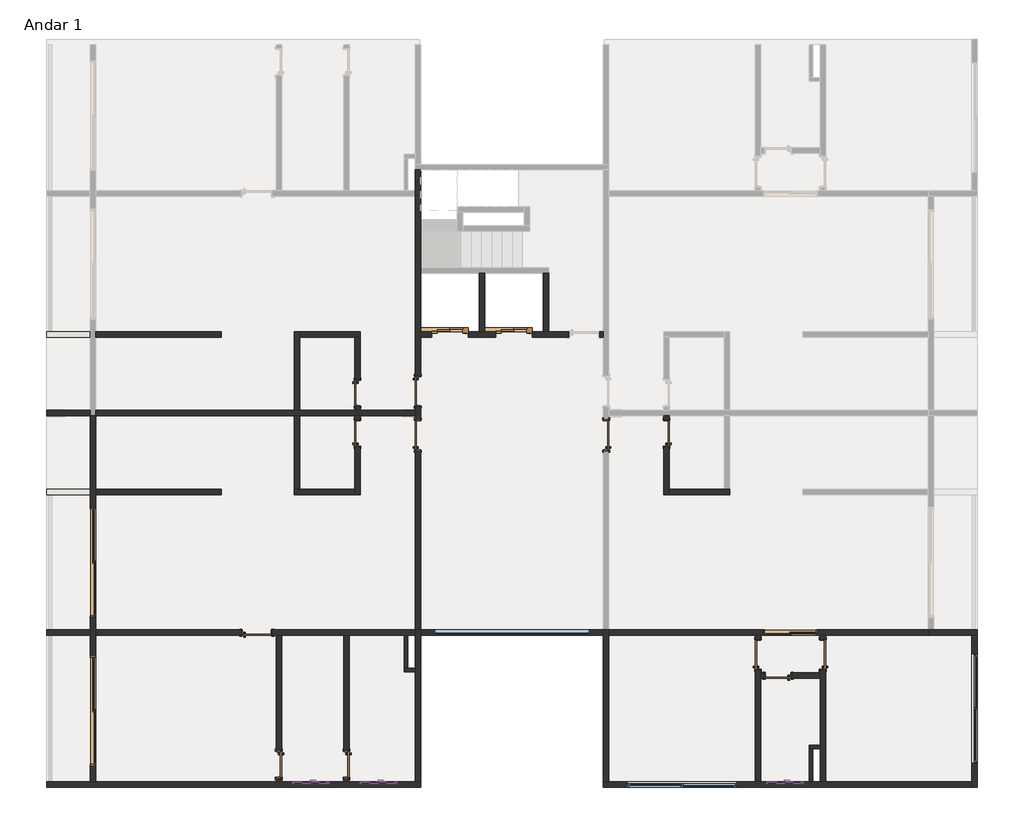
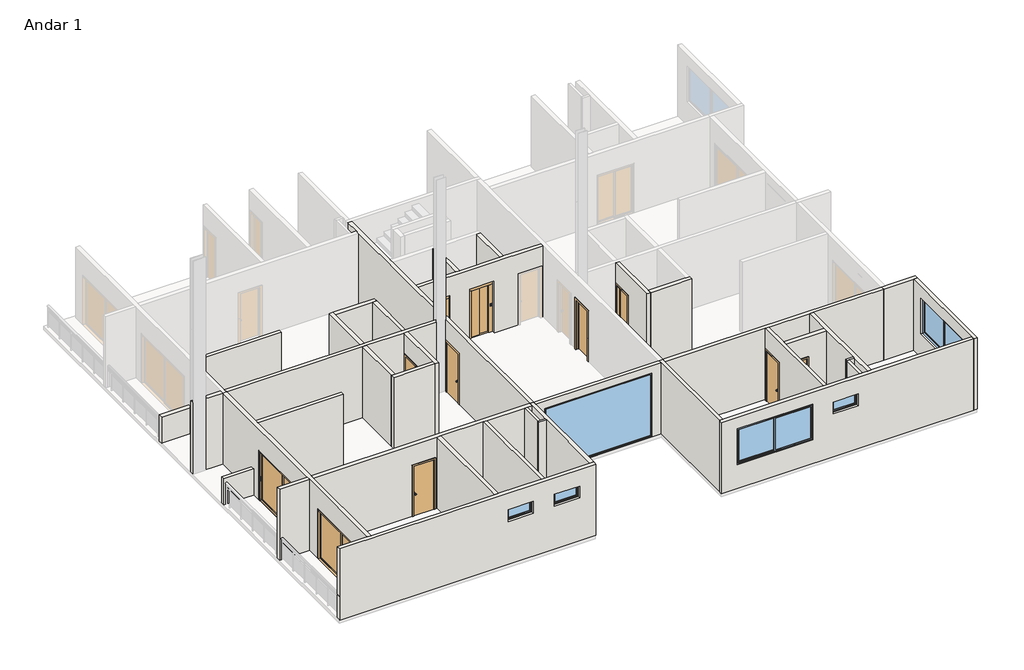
# One storey, part 1 of 3: 38 walls, 17 doors, 6 windows.
"""IFC4 building model written with IfcOpenShell, lengths in millimetres."""

from ifc_helpers import new_model, si_unit, frame, origin, place, context, project, spatial, polyline, outline, extrude, faceted_brep, transform, mapped, element, save
from components import door_ffffc2e2, door_3_00m_x_2_10m_5baaadc1, door_interior_single_flush_panel_wood_70m_89b55d44, door_interior_single_flush_panel_wood_70m_eb1ec4d9, door_interior_single_flush_panel_wood_80m_pcf_cb5077a7, door_interior_single_flush_panel_wood_80m_pcf_192ded05, p2_1_50m_x_2_10m_936728f7, window_d153a765, j1_3_00m_x_1_50m_28497eee, m_fixo_j3_4_30m_x_2_70m_9528c059

model = new_model("IFC4")

# Units and contexts
model_context = context("Model", 3, world=origin())
ifc_project = project(units=[si_unit("LENGTHUNIT", "METRE", prefix="MILLI")], contexts=[model_context])

# Site, building, storey
site = spatial("IfcSite", under=ifc_project)
building = spatial("IfcBuilding", under=site)
storey = spatial("IfcBuildingStorey", under=building, Name="Andar 1", Elevation=3150.0)

# Doors
placement = place(None, origin())
door_shape = door_ffffc2e2(model_context)
element("IfcDoor", 1, ObjectType="Porta do elevador : Porta do elevador", at=placement, inside=storey, context=model_context, shape_type="MappedRepresentation", body=[
    mapped(door_shape, transform((16900.0, 14650.0, 3150.0), x_axis=(1.0, 0.0, 0.0), y_axis=(0.0, 1.0, 0.0), z_axis=(0.0, 0.0, 1.0))),
])
element("IfcDoor", 2, ObjectType="Porta do elevador : Porta do elevador", at=placement, inside=storey, context=model_context, shape_type="MappedRepresentation", body=[
    mapped(door_shape, transform((18650.0, 14650.0, 3150.0), x_axis=(1.0, 0.0, 0.0), y_axis=(0.0, 1.0, 0.0), z_axis=(0.0, 0.0, 1.0))),
])
door_3_00m_x_2_10m_shape = door_3_00m_x_2_10m_5baaadc1(model_context)
element("IfcDoor", 3, ObjectType="Porta de Correr - 2 Folhas - ComPainel 1 : 3.00m x 2.10m", at=placement, inside=storey, context=model_context, shape_type="MappedRepresentation", body=[
    mapped(door_3_00m_x_2_10m_shape, transform((7275.0, 8395.7939229, 3150.0), x_axis=(0.0, 1.0, 0.0), y_axis=(-1.0, 0.0, 0.0), z_axis=(0.0, 0.0, 1.0))),
])
element("IfcDoor", 4, ObjectType="Porta de Correr - 2 Folhas - ComPainel 1 : 3.00m x 2.10m", at=placement, inside=storey, context=model_context, shape_type="MappedRepresentation", body=[
    mapped(door_3_00m_x_2_10m_shape, transform((7275.0, 4335.7939229, 3150.0), x_axis=(0.0, 1.0, 0.0), y_axis=(-1.0, 0.0, 0.0), z_axis=(0.0, 0.0, 1.0))),
])
door_interior_single_flush_panel_wood_70m_shape = door_interior_single_flush_panel_wood_70m_89b55d44(model_context)
element("IfcDoor", 5, ObjectType="Door-Interior-Single-Flush_Panel-Wood : .70m", at=placement, inside=storey, context=model_context, shape_type="MappedRepresentation", body=[
    mapped(door_interior_single_flush_panel_wood_70m_shape, transform((14496.825, 11949.6, 3150.0), x_axis=(0.0, 1.0, 0.0), y_axis=(-1.0, 0.0, 0.0), z_axis=(0.0, 0.0, 1.0))),
])
element("IfcDoor", 6, ObjectType="Door-Interior-Single-Flush_Panel-Wood : .70m", at=placement, inside=storey, context=model_context, shape_type="MappedRepresentation", body=[
    mapped(door_interior_single_flush_panel_wood_70m_shape, transform((14203.175, 2900.4, 3150.0), x_axis=(0.0, -1.0, 0.0), y_axis=(1.0, 0.0, 0.0), z_axis=(0.0, 0.0, 1.0))),
])
element("IfcDoor", 7, ObjectType="Door-Interior-Single-Flush_Panel-Wood : .70m", at=placement, inside=storey, context=model_context, shape_type="MappedRepresentation", body=[
    mapped(door_interior_single_flush_panel_wood_70m_shape, transform((26000.4, 5321.425, 3150.0), x_axis=(-1.0, 0.0, 0.0), y_axis=(0.0, -1.0, 0.0), z_axis=(0.0, 0.0, 1.0))),
])
element("IfcDoor", 8, ObjectType="Door-Interior-Single-Flush_Panel-Wood : .70m", at=placement, inside=storey, context=model_context, shape_type="MappedRepresentation", body=[
    mapped(door_interior_single_flush_panel_wood_70m_shape, transform((12353.175, 2900.4, 3150.0), x_axis=(0.0, -1.0, 0.0), y_axis=(1.0, 0.0, 0.0), z_axis=(0.0, 0.0, 1.0))),
])
door_interior_single_flush_panel_wood_70m_2_shape = door_interior_single_flush_panel_wood_70m_eb1ec4d9(model_context)
element("IfcDoor", 9, ObjectType="Door-Interior-Single-Flush_Panel-Wood : .70m", at=placement, inside=storey, context=model_context, shape_type="MappedRepresentation", body=[
    mapped(door_interior_single_flush_panel_wood_70m_2_shape, transform((14496.825, 13050.4, 3150.0), x_axis=(0.0, -1.0, 0.0), y_axis=(1.0, 0.0, 0.0), z_axis=(0.0, 0.0, 1.0))),
])
element("IfcDoor", 10, ObjectType="Door-Interior-Single-Flush_Panel-Wood : .70m", at=placement, inside=storey, context=model_context, shape_type="MappedRepresentation", body=[
    mapped(door_interior_single_flush_panel_wood_70m_2_shape, transform((22953.175, 11949.6, 3150.0), x_axis=(0.0, 1.0, 0.0), y_axis=(-1.0, 0.0, 0.0), z_axis=(0.0, 0.0, 1.0))),
])
door_interior_single_flush_panel_wood_80m_pcf_shape = door_interior_single_flush_panel_wood_80m_pcf_cb5077a7(model_context)
element("IfcDoor", 11, ObjectType="Door-Interior-Single-Flush_Panel-Wood : .80m", at=placement, inside=storey, context=model_context, shape_type="MappedRepresentation", body=[
    mapped(door_interior_single_flush_panel_wood_80m_pcf_shape, transform((11749.6, 6496.825, 3150.0), x_axis=(1.0, 0.0, 0.0), y_axis=(0.0, 1.0, 0.0), z_axis=(0.0, 0.0, 1.0))),
])
element("IfcDoor", 12, ObjectType="Door-Interior-Single-Flush_Panel-Wood : .80m", at=placement, inside=storey, context=model_context, shape_type="MappedRepresentation", body=[
    mapped(door_interior_single_flush_panel_wood_80m_pcf_shape, transform((27228.175, 5899.6, 3150.0), x_axis=(0.0, 1.0, 0.0), y_axis=(-1.0, 0.0, 0.0), z_axis=(0.0, 0.0, 1.0))),
])
door_interior_single_flush_panel_wood_80m_pcf_2_shape = door_interior_single_flush_panel_wood_80m_pcf_192ded05(model_context)
element("IfcDoor", 13, ObjectType="Door-Interior-Single-Flush_Panel-Wood : .80m", at=placement, inside=storey, context=model_context, shape_type="MappedRepresentation", body=[
    mapped(door_interior_single_flush_panel_wood_80m_pcf_2_shape, transform((25446.825, 5899.6, 3150.0), x_axis=(0.0, 1.0, 0.0), y_axis=(-1.0, 0.0, 0.0), z_axis=(0.0, 0.0, 1.0))),
])
element("IfcDoor", 14, ObjectType="Door-Interior-Single-Flush_Panel-Wood : .80m - PCF", at=placement, inside=storey, context=model_context, shape_type="MappedRepresentation", body=[
    mapped(door_interior_single_flush_panel_wood_80m_pcf_2_shape, transform((16146.825, 11899.6, 3150.0), x_axis=(0.0, 1.0, 0.0), y_axis=(-1.0, 0.0, 0.0), z_axis=(0.0, 0.0, 1.0))),
])
element("IfcDoor", 15, ObjectType="Door-Interior-Single-Flush_Panel-Wood : .80m - PCF", at=placement, inside=storey, context=model_context, shape_type="MappedRepresentation", body=[
    mapped(door_interior_single_flush_panel_wood_80m_pcf_shape, transform((16146.825, 13100.4, 3150.0), x_axis=(0.0, -1.0, 0.0), y_axis=(1.0, 0.0, 0.0), z_axis=(0.0, 0.0, 1.0))),
])
element("IfcDoor", 16, ObjectType="Door-Interior-Single-Flush_Panel-Wood : .80m - PCF", at=placement, inside=storey, context=model_context, shape_type="MappedRepresentation", body=[
    mapped(door_interior_single_flush_panel_wood_80m_pcf_shape, transform((21303.175, 11899.6, 3150.0), x_axis=(0.0, 1.0, 0.0), y_axis=(-1.0, 0.0, 0.0), z_axis=(0.0, 0.0, 1.0))),
])
p2_1_50m_x_2_10m_shape = p2_1_50m_x_2_10m_936728f7(model_context)
element("IfcDoor", 17, ObjectType="Porta de Correr - 2 Folhas - ComPainel 1 : P2 - 1.50m x 2.10m", at=placement, inside=storey, context=model_context, shape_type="MappedRepresentation", body=[
    mapped(p2_1_50m_x_2_10m_shape, transform((26308.2939229, 6500.0, 3150.0), x_axis=(1.0, 0.0, 0.0), y_axis=(0.0, 1.0, 0.0), z_axis=(0.0, 0.0, 1.0))),
])

# Walls
element("IfcWall", 18, ObjectType="M_Parede Normal - 10cm - Interna", at=placement, inside=storey, context=model_context, shape_type="Brep", body=[
    faceted_brep([(27150.0, 3425.0, 3150.0), (26850.0, 3425.0, 3150.0), (26850.0, 3425.0, 6150.0), (27150.0, 3425.0, 6150.0), (27150.0, 3325.0, 3150.0), (27150.0, 3325.0, 6150.0), (26950.0, 3325.0, 6150.0), (26850.0, 3325.0, 6150.0), (26850.0, 3325.0, 3150.0), (26950.0, 3325.0, 3150.0)], [[[0, 1, 2, 3]], [[4, 5, 6, 7, 8, 9]], [[1, 0, 4, 9, 8]], [[3, 2, 7, 6, 5]], [[2, 1, 8, 7]], [[0, 3, 5, 4]]]),
])
element("IfcWall", 19, ObjectType="M_Parede Normal - 10cm - Interna", at=placement, inside=storey, context=model_context, shape_type="SweptSolid", body=[
    extrude(outline(polyline([(26850.0, 2425.0), (26850.0, 3325.0), (26950.0, 3325.0), (26950.0, 2425.0), (26850.0, 2425.0)])), frame((0.0, 0.0, 3150.0), z_axis=(0.0, 0.0, 1.0), x_axis=(1.0, 0.0, 0.0)), (0.0, 0.0, 1.0), 3000.0),
])
element("IfcWall", 20, ObjectType="M_Parede Normal - 10cm - Interna", at=placement, inside=storey, context=model_context, shape_type="Brep", body=[
    faceted_brep([(16075.0, 5525.0, 3150.0), (15875.0, 5525.0, 3150.0), (15775.0, 5525.0, 3150.0), (15775.0, 5525.0, 6150.0), (15875.0, 5525.0, 6150.0), (16075.0, 5525.0, 6150.0), (16075.0, 5425.0, 3150.0), (16075.0, 5425.0, 6150.0), (15775.0, 5425.0, 6150.0), (15775.0, 5425.0, 3150.0)], [[[0, 1, 2, 3, 4, 5]], [[6, 7, 8, 9]], [[2, 1, 0, 6, 9]], [[5, 4, 3, 8, 7]], [[3, 2, 9, 8]], [[0, 5, 7, 6]]]),
])
element("IfcWall", 21, ObjectType="M_Parede Normal - 10cm - Interna", at=placement, inside=storey, context=model_context, shape_type="SweptSolid", body=[
    extrude(outline(polyline([(15875.0, 6425.0), (15875.0, 5525.0), (15775.0, 5525.0), (15775.0, 6425.0), (15875.0, 6425.0)])), frame((0.0, 0.0, 3150.0), z_axis=(0.0, 0.0, 1.0), x_axis=(1.0, 0.0, 0.0)), (0.0, 0.0, 1.0), 3000.0),
])
element("IfcWall", 22, ObjectType="M_Parede Normal - 15cm - Externa", at=placement, inside=storey, context=model_context, shape_type="SweptSolid", body=[
    extrude(outline(polyline([(7200.0, 14575.0), (6000.0, 14575.0), (6000.0, 14725.0), (7200.0, 14725.0), (7200.0, 14575.0)])), frame((0.0, 0.0, 3150.0), z_axis=(0.0, 0.0, 1.0), x_axis=(1.0, 0.0, 0.0)), (0.0, 0.0, 1.0), 1100.0),
])
element("IfcWall", 23, ObjectType="M_Parede Normal - 15cm - Externa", at=placement, inside=storey, context=model_context, shape_type="Brep", body=[
    faceted_brep([(16225.0, 2425.0, 3150.0), (16225.0, 6425.0, 3150.0), (16225.0, 6575.0, 3150.0), (16225.0, 6575.0, 6150.0), (16225.0, 6425.0, 6150.0), (16225.0, 2425.0, 6150.0), (16075.0, 2425.0, 3150.0), (16075.0, 2425.0, 6150.0), (16075.0, 5425.0, 6150.0), (16075.0, 5525.0, 6150.0), (16075.0, 6425.0, 6150.0), (16075.0, 6575.0, 6150.0), (16075.0, 6575.0, 3150.0), (16075.0, 6425.0, 3150.0), (16075.0, 5525.0, 3150.0), (16075.0, 5425.0, 3150.0)], [[[0, 1, 2, 3, 4, 5]], [[6, 7, 8, 9, 10, 11, 12, 13, 14, 15]], [[2, 1, 0, 6, 15, 14, 13, 12]], [[5, 4, 3, 11, 10, 9, 8, 7]], [[0, 5, 7, 6]], [[3, 2, 12, 11]]]),
])
element("IfcWall", 24, ObjectType="M_Parede Normal - 15cm - Externa", at=placement, inside=storey, context=model_context, shape_type="Brep", body=[
    faceted_brep([(6000.0, 2275.0, 3150.0), (16225.0, 2275.0, 3150.0), (16225.0, 2275.0, 6150.0), (6000.0, 2275.0, 6150.0), (13725.0, 2275.0, 4950.0), (12725.0, 2275.0, 4950.0), (12725.0, 2275.0, 5450.0), (13725.0, 2275.0, 5450.0), (15575.0, 2275.0, 4950.0), (14575.0, 2275.0, 4950.0), (14575.0, 2275.0, 5450.0), (15575.0, 2275.0, 5450.0), (6000.0, 2425.0, 3150.0), (6000.0, 2425.0, 6150.0), (7200.0, 2425.0, 6150.0), (7350.0, 2425.0, 6150.0), (12275.0, 2425.0, 6150.0), (12425.0, 2425.0, 6150.0), (14125.0, 2425.0, 6150.0), (14275.0, 2425.0, 6150.0), (16075.0, 2425.0, 6150.0), (16225.0, 2425.0, 6150.0), (16225.0, 2425.0, 3150.0), (16075.0, 2425.0, 3150.0), (14275.0, 2425.0, 3150.0), (14125.0, 2425.0, 3150.0), (12425.0, 2425.0, 3150.0), (12275.0, 2425.0, 3150.0), (7350.0, 2425.0, 3150.0), (7200.0, 2425.0, 3150.0), (6150.0, 2425.0, 3150.0), (13725.0, 2425.0, 4950.0), (13725.0, 2425.0, 5450.0), (12725.0, 2425.0, 5450.0), (12725.0, 2425.0, 4950.0), (15575.0, 2425.0, 4950.0), (15575.0, 2425.0, 5450.0), (14575.0, 2425.0, 5450.0), (14575.0, 2425.0, 4950.0)], [[[0, 1, 2, 3], [4, 5, 6, 7], [8, 9, 10, 11]], [[12, 13, 14, 15, 16, 17, 18, 19, 20, 21, 22, 23, 24, 25, 26, 27, 28, 29, 30], [31, 32, 33, 34], [35, 36, 37, 38]], [[1, 0, 12, 30, 29, 28, 27, 26, 25, 24, 23, 22]], [[3, 2, 21, 20, 19, 18, 17, 16, 15, 14, 13]], [[0, 3, 13, 12]], [[2, 1, 22, 21]], [[32, 31, 4, 7]], [[33, 32, 7, 6]], [[34, 33, 6, 5]], [[31, 34, 5, 4]], [[36, 35, 8, 11]], [[37, 36, 11, 10]], [[38, 37, 10, 9]], [[35, 38, 9, 8]]]),
])
element("IfcWall", 25, ObjectType="M_Parede Normal - 15cm - Externa", at=placement, inside=storey, context=model_context, shape_type="Brep", body=[
    faceted_brep([(7200.0, 2425.0, 6150.0), (7200.0, 6425.0, 6150.0), (7200.0, 6575.0, 6150.0), (7200.0, 12425.0, 6150.0), (7200.0, 12425.0, 3150.0), (7200.0, 9925.0, 3150.0), (7200.0, 9925.0, 5250.0), (7200.0, 6925.0, 5250.0), (7200.0, 6925.0, 3150.0), (7200.0, 6575.0, 3150.0), (7200.0, 6425.0, 3150.0), (7200.0, 5865.0, 3150.0), (7200.0, 5865.0, 5250.0), (7200.0, 2865.0, 5250.0), (7200.0, 2865.0, 3150.0), (7200.0, 2425.0, 3150.0), (7350.0, 12425.0, 6150.0), (7350.0, 6575.0, 6150.0), (7350.0, 6425.0, 6150.0), (7350.0, 2425.0, 6150.0), (7350.0, 2425.0, 3150.0), (7350.0, 2865.0, 3150.0), (7350.0, 2865.0, 5250.0), (7350.0, 5865.0, 5250.0), (7350.0, 5865.0, 3150.0), (7350.0, 6425.0, 3150.0), (7350.0, 6575.0, 3150.0), (7350.0, 6925.0, 3150.0), (7350.0, 6925.0, 5250.0), (7350.0, 9925.0, 5250.0), (7350.0, 9925.0, 3150.0), (7350.0, 12425.0, 3150.0)], [[[0, 1, 2, 3, 4, 5, 6, 7, 8, 9, 10, 11, 12, 13, 14, 15]], [[16, 17, 18, 19, 20, 21, 22, 23, 24, 25, 26, 27, 28, 29, 30, 31]], [[20, 15, 14, 21]], [[24, 11, 10, 9, 8, 27, 26, 25]], [[4, 31, 30, 5]], [[3, 2, 1, 0, 19, 18, 17, 16]], [[0, 15, 20, 19]], [[4, 3, 16, 31]], [[23, 12, 11, 24]], [[12, 23, 22, 13]], [[13, 22, 21, 14]], [[29, 6, 5, 30]], [[6, 29, 28, 7]], [[7, 28, 27, 8]]]),
])
element("IfcWall", 26, ObjectType="M_Parede Normal - 15cm - Externa", at=placement, inside=storey, context=model_context, shape_type="Brep", body=[
    faceted_brep([(21375.0, 2425.0, 3150.0), (21375.0, 6425.0, 3150.0), (21375.0, 6575.0, 3150.0), (21375.0, 6575.0, 6150.0), (21375.0, 6425.0, 6150.0), (21375.0, 2425.0, 6150.0), (21225.0, 2425.0, 3150.0), (21225.0, 2425.0, 6150.0), (21225.0, 6425.0, 6150.0), (21225.0, 6575.0, 6150.0), (21225.0, 6575.0, 3150.0), (21225.0, 6425.0, 3150.0)], [[[0, 1, 2, 3, 4, 5]], [[6, 7, 8, 9, 10, 11]], [[2, 1, 0, 6, 11, 10]], [[5, 4, 3, 9, 8, 7]], [[0, 5, 7, 6]], [[3, 2, 10, 9]]]),
])
element("IfcWall", 27, ObjectType="M_Parede Normal - 15cm - Externa", at=placement, inside=storey, context=model_context, shape_type="Brep", body=[
    faceted_brep([(31300.0, 6425.0, 3150.0), (31300.0, 2425.0, 3150.0), (31300.0, 2275.0, 3150.0), (31300.0, 2275.0, 6150.0), (31300.0, 2425.0, 6150.0), (31300.0, 6425.0, 6150.0), (31300.0, 5925.0, 4150.0), (31300.0, 5925.0, 5650.0), (31300.0, 2925.0, 5650.0), (31300.0, 2925.0, 4150.0), (31450.0, 6425.0, 3150.0), (31450.0, 6425.0, 6150.0), (31450.0, 2275.0, 6150.0), (31450.0, 2275.0, 3150.0), (31450.0, 5925.0, 4150.0), (31450.0, 2925.0, 4150.0), (31450.0, 2925.0, 5650.0), (31450.0, 5925.0, 5650.0)], [[[0, 1, 2, 3, 4, 5], [6, 7, 8, 9]], [[10, 11, 12, 13], [14, 15, 16, 17]], [[2, 1, 0, 10, 13]], [[5, 4, 3, 12, 11]], [[0, 5, 11, 10]], [[3, 2, 13, 12]], [[7, 6, 14, 17]], [[8, 7, 17, 16]], [[9, 8, 16, 15]], [[6, 9, 15, 14]]]),
])
element("IfcWall", 28, ObjectType="M_Parede Normal - 15cm - Externa", at=placement, inside=storey, context=model_context, shape_type="SweptSolid", body=[
    extrude(outline(polyline([(6000.0, 6575.0), (7200.0, 6575.0), (7200.0, 6425.0), (6000.0, 6425.0), (6000.0, 6575.0)])), frame((0.0, 0.0, 3150.0), z_axis=(0.0, 0.0, 1.0), x_axis=(1.0, 0.0, 0.0)), (0.0, 0.0, 1.0), 3000.0),
])
element("IfcWall", 29, ObjectType="M_Parede Normal - 15cm - Externa", at=placement, inside=storey, context=model_context, shape_type="Brep", body=[
    faceted_brep([(30100.0, 6425.0, 3150.0), (31300.0, 6425.0, 3150.0), (31450.0, 6425.0, 3150.0), (31450.0, 6425.0, 6150.0), (31300.0, 6425.0, 6150.0), (30100.0, 6425.0, 6150.0), (30100.0, 6575.0, 3150.0), (30100.0, 6575.0, 6150.0), (30250.0, 6575.0, 6150.0), (31450.0, 6575.0, 6150.0), (31450.0, 6575.0, 3150.0), (30250.0, 6575.0, 3150.0)], [[[0, 1, 2, 3, 4, 5]], [[6, 7, 8, 9, 10, 11]], [[2, 1, 0, 6, 11, 10]], [[5, 4, 3, 9, 8, 7]], [[3, 2, 10, 9]], [[0, 5, 7, 6]]]),
])
element("IfcWall", 30, ObjectType="M_Parede Normal - 15cm - Externa", at=placement, inside=storey, context=model_context, shape_type="SweptSolid", body=[
    extrude(outline(polyline([(7200.0, 10275.0), (6000.0, 10275.0), (6000.0, 10425.0), (7200.0, 10425.0), (7200.0, 10275.0)])), frame((0.0, 0.0, 3150.0), z_axis=(0.0, 0.0, 1.0), x_axis=(1.0, 0.0, 0.0)), (0.0, 0.0, 1.0), 1100.0),
])
element("IfcWall", 31, ObjectType="M_Parede Normal - 15cm - Externa", at=placement, inside=storey, context=model_context, shape_type="SweptSolid", body=[
    extrude(outline(polyline([(6150.0, 21225.0), (6150.0, 16225.0), (3150.0, 16225.0), (3150.0, 16575.0), (5850.0, 16575.0), (5850.0, 20875.0), (3150.0, 20875.0), (3150.0, 21225.0), (6150.0, 21225.0)])), frame((0.0, 6425.0, 0.0), z_axis=(0.0, 1.0, 0.0), x_axis=(0.0, 0.0, 1.0)), (0.0, 0.0, 1.0), 150.0),
])
element("IfcWall", 32, ObjectType="M_Parede Normal - 15cm - Externa", at=placement, inside=storey, context=model_context, shape_type="Brep", body=[
    faceted_brep([(21225.0, 2275.0, 3150.0), (31300.0, 2275.0, 3150.0), (31300.0, 2275.0, 6150.0), (21225.0, 2275.0, 6150.0), (24875.0, 2275.0, 4150.0), (21875.0, 2275.0, 4150.0), (21875.0, 2275.0, 5650.0), (24875.0, 2275.0, 5650.0), (26687.5, 2275.0, 4950.0), (25687.5, 2275.0, 4950.0), (25687.5, 2275.0, 5450.0), (26687.5, 2275.0, 5450.0), (21225.0, 2425.0, 3150.0), (21225.0, 2425.0, 6150.0), (21375.0, 2425.0, 6150.0), (25375.0, 2425.0, 6150.0), (25525.0, 2425.0, 6150.0), (26850.0, 2425.0, 6150.0), (26950.0, 2425.0, 6150.0), (27150.0, 2425.0, 6150.0), (27300.0, 2425.0, 6150.0), (31300.0, 2425.0, 6150.0), (31300.0, 2425.0, 3150.0), (27300.0, 2425.0, 3150.0), (27150.0, 2425.0, 3150.0), (26950.0, 2425.0, 3150.0), (26850.0, 2425.0, 3150.0), (25525.0, 2425.0, 3150.0), (25375.0, 2425.0, 3150.0), (21375.0, 2425.0, 3150.0), (24875.0, 2425.0, 4150.0), (24875.0, 2425.0, 5650.0), (21875.0, 2425.0, 5650.0), (21875.0, 2425.0, 4150.0), (26687.5, 2425.0, 4950.0), (26687.5, 2425.0, 5450.0), (25687.5, 2425.0, 5450.0), (25687.5, 2425.0, 4950.0)], [[[0, 1, 2, 3], [4, 5, 6, 7], [8, 9, 10, 11]], [[12, 13, 14, 15, 16, 17, 18, 19, 20, 21, 22, 23, 24, 25, 26, 27, 28, 29], [30, 31, 32, 33], [34, 35, 36, 37]], [[1, 0, 12, 29, 28, 27, 26, 25, 24, 23, 22]], [[3, 2, 21, 20, 19, 18, 17, 16, 15, 14, 13]], [[2, 1, 22, 21]], [[0, 3, 13, 12]], [[31, 30, 4, 7]], [[32, 31, 7, 6]], [[33, 32, 6, 5]], [[30, 33, 5, 4]], [[35, 34, 8, 11]], [[36, 35, 11, 10]], [[37, 36, 10, 9]], [[34, 37, 9, 8]]]),
])
element("IfcWall", 33, ObjectType="M_Parede Normal - 15cm - Externa", at=placement, inside=storey, context=model_context, shape_type="Brep", body=[
    faceted_brep([(7200.0, 12575.0, 3150.0), (6500.0, 12575.0, 3150.0), (6000.0, 12575.0, 3150.0), (6000.0, 12575.0, 6150.0), (7200.0, 12575.0, 6150.0), (7200.0, 12425.0, 3150.0), (7200.0, 12425.0, 6150.0), (6000.0, 12425.0, 6150.0), (6000.0, 12425.0, 3150.0), (6500.0, 12425.0, 3150.0)], [[[0, 1, 2, 3, 4]], [[5, 6, 7, 8, 9]], [[2, 1, 0, 5, 9, 8]], [[3, 2, 8, 7]], [[4, 3, 7, 6]], [[0, 4, 6, 5]]]),
])
element("IfcWall", 34, ObjectType="M_Parede Normal - 15cm - Interna", at=placement, inside=storey, context=model_context, shape_type="SweptSolid", body=[
    extrude(outline(polyline([(12575.0, 6150.0), (14575.0, 6150.0), (14575.0, 3150.0), (13425.8, 3150.0), (13425.8, 5275.4), (12675.0, 5275.4), (12675.0, 3150.0), (12575.0, 3150.0), (12575.0, 6150.0)])), frame((14425.0, 0.0, 0.0), z_axis=(1.0, 0.0, 0.0), x_axis=(0.0, 1.0, 0.0)), (0.0, 0.0, 1.0), 150.0),
])
element("IfcWall", 35, ObjectType="M_Parede Normal - 15cm - Interna", at=placement, inside=storey, context=model_context, shape_type="Brep", body=[
    faceted_brep([(14575.0, 14725.0, 3150.0), (12925.0, 14725.0, 3150.0), (12925.0, 14725.0, 6150.0), (14575.0, 14725.0, 6150.0), (14575.0, 14575.0, 3150.0), (14575.0, 14575.0, 6150.0), (14425.0, 14575.0, 6150.0), (12925.0, 14575.0, 6150.0), (12925.0, 14575.0, 3150.0), (14425.0, 14575.0, 3150.0)], [[[0, 1, 2, 3]], [[4, 5, 6, 7, 8, 9]], [[1, 0, 4, 9, 8]], [[3, 2, 7, 6, 5]], [[0, 3, 5, 4]], [[2, 1, 8, 7]]]),
])
element("IfcWall", 36, ObjectType="M_Parede Normal - 15cm - Interna", at=placement, inside=storey, context=model_context, shape_type="Brep", body=[
    faceted_brep([(12775.0, 14725.0, 3150.0), (12775.0, 12575.0, 3150.0), (12775.0, 12575.0, 6150.0), (12775.0, 14725.0, 6150.0), (12925.0, 14725.0, 3150.0), (12925.0, 14725.0, 6150.0), (12925.0, 14575.0, 6150.0), (12925.0, 12575.0, 6150.0), (12925.0, 12575.0, 3150.0), (12925.0, 14575.0, 3150.0)], [[[0, 1, 2, 3]], [[4, 5, 6, 7, 8, 9]], [[1, 0, 4, 9, 8]], [[3, 2, 7, 6, 5]], [[0, 3, 5, 4]], [[2, 1, 8, 7]]]),
])
element("IfcWall", 37, ObjectType="M_Parede Normal - 15cm - Interna", at=placement, inside=storey, context=model_context, shape_type="SweptSolid", body=[
    extrude(outline(polyline([(10775.0, 14575.0), (7350.0, 14575.0), (7350.0, 14725.0), (10775.0, 14725.0), (10775.0, 14575.0)])), frame((0.0, 0.0, 3150.0), z_axis=(0.0, 0.0, 1.0), x_axis=(1.0, 0.0, 0.0)), (0.0, 0.0, 1.0), 3000.0),
])
element("IfcWall", 38, ObjectType="M_Parede Normal - 15cm - Interna", at=placement, inside=storey, context=model_context, shape_type="Brep", body=[
    faceted_brep([(19275.0, 14575.0, 5350.0), (19275.0, 14575.0, 3150.0), (20274.2, 14575.0, 3150.0), (20274.2, 14575.0, 5275.4), (21125.0, 14575.0, 5275.4), (21125.0, 14575.0, 3150.0), (21225.0, 14575.0, 3150.0), (21225.0, 14575.0, 6150.0), (16225.0, 14575.0, 6150.0), (16225.0, 14575.0, 3150.0), (16525.0, 14575.0, 3150.0), (16525.0, 14575.0, 5350.0), (17525.0, 14575.0, 5350.0), (17525.0, 14575.0, 3150.0), (18275.0, 14575.0, 3150.0), (18275.0, 14575.0, 5350.0), (20274.2, 14725.0, 3150.0), (19725.0, 14725.0, 3150.0), (19575.0, 14725.0, 3150.0), (19275.0, 14725.0, 3150.0), (19275.0, 14725.0, 5350.0), (18275.0, 14725.0, 5350.0), (18275.0, 14725.0, 3150.0), (17975.0, 14725.0, 3150.0), (17825.0, 14725.0, 3150.0), (17525.0, 14725.0, 3150.0), (17525.0, 14725.0, 5350.0), (16525.0, 14725.0, 5350.0), (16525.0, 14725.0, 3150.0), (16225.0, 14725.0, 3150.0), (16225.0, 14725.0, 6150.0), (17825.0, 14725.0, 6150.0), (17975.0, 14725.0, 6150.0), (19575.0, 14725.0, 6150.0), (19725.0, 14725.0, 6150.0), (21225.0, 14725.0, 6150.0), (21225.0, 14725.0, 3150.0), (21125.0, 14725.0, 3150.0), (21125.0, 14725.0, 5275.4), (20274.2, 14725.0, 5275.4)], [[[0, 1, 2, 3, 4, 5, 6, 7, 8, 9, 10, 11, 12, 13, 14, 15]], [[16, 17, 18, 19, 20, 21, 22, 23, 24, 25, 26, 27, 28, 29, 30, 31, 32, 33, 34, 35, 36, 37, 38, 39]], [[36, 6, 5, 37]], [[10, 9, 29, 28]], [[14, 13, 25, 24, 23, 22]], [[2, 1, 19, 18, 17, 16]], [[8, 7, 35, 34, 33, 32, 31, 30]], [[4, 38, 37, 5]], [[38, 4, 3, 39]], [[39, 3, 2, 16]], [[7, 6, 36, 35]], [[9, 8, 30, 29]], [[28, 27, 11, 10]], [[26, 25, 13, 12]], [[27, 26, 12, 11]], [[22, 21, 15, 14]], [[20, 19, 1, 0]], [[21, 20, 0, 15]]]),
])
element("IfcWall", 39, ObjectType="M_Parede Normal - 15cm - Interna", at=placement, inside=storey, context=model_context, shape_type="SweptSolid", body=[
    extrude(outline(polyline([(19575.0, 14725.0), (19575.0, 16325.0), (19725.0, 16325.0), (19725.0, 14725.0), (19575.0, 14725.0)])), frame((0.0, 0.0, 3150.0), z_axis=(0.0, 0.0, 1.0), x_axis=(1.0, 0.0, 0.0)), (0.0, 0.0, 1.0), 3000.0),
])
element("IfcWall", 40, ObjectType="M_Parede Normal - 15cm - Interna", at=placement, inside=storey, context=model_context, shape_type="SweptSolid", body=[
    extrude(outline(polyline([(17825.0, 14725.0), (17825.0, 16325.0), (17975.0, 16325.0), (17975.0, 14725.0), (17825.0, 14725.0)])), frame((0.0, 0.0, 3150.0), z_axis=(0.0, 0.0, 1.0), x_axis=(1.0, 0.0, 0.0)), (0.0, 0.0, 1.0), 3000.0),
])
element("IfcWall", 41, ObjectType="M_Parede Normal - 15cm - Interna", at=placement, inside=storey, context=model_context, shape_type="Brep", body=[
    faceted_brep([(16075.0, 12575.0, 3150.0), (15725.0, 12575.0, 3150.0), (14575.0, 12575.0, 3150.0), (14425.0, 12575.0, 3150.0), (12925.0, 12575.0, 3150.0), (12775.0, 12575.0, 3150.0), (7350.0, 12575.0, 3150.0), (7350.0, 12575.0, 6150.0), (12775.0, 12575.0, 6150.0), (12925.0, 12575.0, 6150.0), (14425.0, 12575.0, 6150.0), (14575.0, 12575.0, 6150.0), (16075.0, 12575.0, 6150.0), (16075.0, 12425.0, 3150.0), (16075.0, 12425.0, 6150.0), (14575.0, 12425.0, 6150.0), (14425.0, 12425.0, 6150.0), (12925.0, 12425.0, 6150.0), (12775.0, 12425.0, 6150.0), (7350.0, 12425.0, 6150.0), (7350.0, 12425.0, 3150.0), (12775.0, 12425.0, 3150.0), (12925.0, 12425.0, 3150.0), (14425.0, 12425.0, 3150.0), (14575.0, 12425.0, 3150.0), (15725.0, 12425.0, 3150.0)], [[[0, 1, 2, 3, 4, 5, 6, 7, 8, 9, 10, 11, 12]], [[13, 14, 15, 16, 17, 18, 19, 20, 21, 22, 23, 24, 25]], [[6, 5, 4, 3, 2, 1, 0, 13, 25, 24, 23, 22, 21, 20]], [[12, 11, 10, 9, 8, 7, 19, 18, 17, 16, 15, 14]], [[0, 12, 14, 13]], [[7, 6, 20, 19]]]),
])
element("IfcWall", 42, ObjectType="M_Parede Normal - 15cm - Interna", at=placement, inside=storey, context=model_context, shape_type="Brep", body=[
    faceted_brep([(16075.0, 6575.0, 6150.0), (16075.0, 12425.0, 6150.0), (16075.0, 12575.0, 6150.0), (16075.0, 18425.0, 6150.0), (16075.0, 18575.0, 6150.0), (16075.0, 19149.2009656, 6150.0), (16075.0, 19149.2009656, 3150.0), (16075.0, 18575.0, 3150.0), (16075.0, 18425.0, 3150.0), (16075.0, 13525.8, 3150.0), (16075.0, 13525.8, 5275.4), (16075.0, 12675.0, 5275.4), (16075.0, 12675.0, 3150.0), (16075.0, 12600.0, 3150.0), (16075.0, 12575.0, 3150.0), (16075.0, 12425.0, 3150.0), (16075.0, 12400.0, 3150.0), (16075.0, 12325.0, 3150.0), (16075.0, 12325.0, 5275.4), (16075.0, 11474.2, 5275.4), (16075.0, 11474.2, 3150.0), (16075.0, 6625.0, 3150.0), (16075.0, 6575.0, 3150.0), (16225.0, 19149.2009656, 6150.0), (16225.0, 16475.0, 6150.0), (16225.0, 16325.0, 6150.0), (16225.0, 14725.0, 6150.0), (16225.0, 14575.0, 6150.0), (16225.0, 6575.0, 6150.0), (16225.0, 6575.0, 3150.0), (16225.0, 6625.0, 3150.0), (16225.0, 11474.2, 3150.0), (16225.0, 11474.2, 5275.4), (16225.0, 12325.0, 5275.4), (16225.0, 12325.0, 3150.0), (16225.0, 12675.0, 3150.0), (16225.0, 12675.0, 5275.4), (16225.0, 13525.8, 5275.4), (16225.0, 13525.8, 3150.0), (16225.0, 14575.0, 3150.0), (16225.0, 14725.0, 3150.0), (16225.0, 16325.0, 3150.0), (16225.0, 16475.0, 3150.0), (16225.0, 19149.2009656, 3150.0)], [[[0, 1, 2, 3, 4, 5, 6, 7, 8, 9, 10, 11, 12, 13, 14, 15, 16, 17, 18, 19, 20, 21, 22]], [[23, 24, 25, 26, 27, 28, 29, 30, 31, 32, 33, 34, 35, 36, 37, 38, 39, 40, 41, 42, 43]], [[12, 35, 34, 17, 16, 15, 14, 13]], [[9, 8, 7, 6, 43, 42, 41, 40, 39, 38]], [[29, 22, 21, 20, 31, 30]], [[5, 4, 3, 2, 1, 0, 28, 27, 26, 25, 24, 23]], [[11, 36, 35, 12]], [[36, 11, 10, 37]], [[37, 10, 9, 38]], [[6, 5, 23, 43]], [[0, 22, 29, 28]], [[33, 18, 17, 34]], [[18, 33, 32, 19]], [[19, 32, 31, 20]]]),
])
element("IfcWall", 43, ObjectType="M_Parede Normal - 15cm - Interna", at=placement, inside=storey, context=model_context, shape_type="Brep", body=[
    faceted_brep([(7350.0, 6575.0, 6150.0), (16075.0, 6575.0, 6150.0), (16075.0, 6575.0, 3150.0), (12175.0, 6575.0, 3150.0), (12175.0, 6575.0, 5275.4), (11324.2, 6575.0, 5275.4), (11324.2, 6575.0, 3150.0), (7350.0, 6575.0, 3150.0), (16075.0, 6425.0, 6150.0), (15875.0, 6425.0, 6150.0), (15775.0, 6425.0, 6150.0), (14275.0, 6425.0, 6150.0), (14125.0, 6425.0, 6150.0), (12425.0, 6425.0, 6150.0), (12275.0, 6425.0, 6150.0), (7350.0, 6425.0, 6150.0), (7350.0, 6425.0, 3150.0), (11324.2, 6425.0, 3150.0), (11324.2, 6425.0, 5275.4), (12175.0, 6425.0, 5275.4), (12175.0, 6425.0, 3150.0), (12275.0, 6425.0, 3150.0), (12425.0, 6425.0, 3150.0), (14125.0, 6425.0, 3150.0), (14275.0, 6425.0, 3150.0), (15775.0, 6425.0, 3150.0), (15875.0, 6425.0, 3150.0), (16075.0, 6425.0, 3150.0)], [[[0, 1, 2, 3, 4, 5, 6, 7]], [[8, 9, 10, 11, 12, 13, 14, 15, 16, 17, 18, 19, 20, 21, 22, 23, 24, 25, 26, 27]], [[2, 27, 26, 25, 24, 23, 22, 21, 20, 3]], [[16, 7, 6, 17]], [[1, 0, 15, 14, 13, 12, 11, 10, 9, 8]], [[19, 4, 3, 20]], [[4, 19, 18, 5]], [[5, 18, 17, 6]], [[2, 1, 8, 27]], [[0, 7, 16, 15]]]),
])
element("IfcWall", 44, ObjectType="M_Parede Normal - 15cm - Interna", at=placement, inside=storey, context=model_context, shape_type="SweptSolid", body=[
    extrude(outline(polyline([(2425.0, 6150.0), (6425.0, 6150.0), (6425.0, 3150.0), (3275.8, 3150.0), (3275.8, 5275.4), (2525.0, 5275.4), (2525.0, 3150.0), (2425.0, 3150.0), (2425.0, 6150.0)])), frame((14125.0, 0.0, 0.0), z_axis=(1.0, 0.0, 0.0), x_axis=(0.0, 1.0, 0.0)), (0.0, 0.0, 1.0), 150.0),
])
element("IfcWall", 45, ObjectType="M_Parede Normal - 15cm - Interna", at=placement, inside=storey, context=model_context, shape_type="Brep", body=[
    faceted_brep([(14425.0, 10275.0, 6150.0), (14425.0, 10425.0, 6150.0), (14425.0, 12425.0, 6150.0), (14425.0, 12425.0, 3150.0), (14425.0, 12325.0, 3150.0), (14425.0, 12325.0, 5275.4), (14425.0, 11574.2, 5275.4), (14425.0, 11574.2, 3150.0), (14425.0, 10425.0, 3150.0), (14425.0, 10275.0, 3150.0), (14575.0, 12425.0, 6150.0), (14575.0, 10275.0, 6150.0), (14575.0, 10275.0, 3150.0), (14575.0, 11574.2, 3150.0), (14575.0, 11574.2, 5275.4), (14575.0, 12325.0, 5275.4), (14575.0, 12325.0, 3150.0), (14575.0, 12425.0, 3150.0)], [[[0, 1, 2, 3, 4, 5, 6, 7, 8, 9]], [[10, 11, 12, 13, 14, 15, 16, 17]], [[12, 9, 8, 7, 13]], [[3, 17, 16, 4]], [[2, 1, 0, 11, 10]], [[15, 5, 4, 16]], [[5, 15, 14, 6]], [[6, 14, 13, 7]], [[0, 9, 12, 11]], [[3, 2, 10, 17]]]),
])
element("IfcWall", 46, ObjectType="M_Parede Normal - 15cm - Interna", at=placement, inside=storey, context=model_context, shape_type="Brep", body=[
    faceted_brep([(14425.0, 10425.0, 3150.0), (12925.0, 10425.0, 3150.0), (12775.0, 10425.0, 3150.0), (12775.0, 10425.0, 6150.0), (12925.0, 10425.0, 6150.0), (14425.0, 10425.0, 6150.0), (14425.0, 10275.0, 3150.0), (14425.0, 10275.0, 6150.0), (12775.0, 10275.0, 6150.0), (12775.0, 10275.0, 3150.0)], [[[0, 1, 2, 3, 4, 5]], [[6, 7, 8, 9]], [[2, 1, 0, 6, 9]], [[5, 4, 3, 8, 7]], [[3, 2, 9, 8]], [[0, 5, 7, 6]]]),
])
element("IfcWall", 47, ObjectType="M_Parede Normal - 15cm - Interna", at=placement, inside=storey, context=model_context, shape_type="SweptSolid", body=[
    extrude(outline(polyline([(12925.0, 12425.0), (12925.0, 10425.0), (12775.0, 10425.0), (12775.0, 12425.0), (12925.0, 12425.0)])), frame((0.0, 0.0, 3150.0), z_axis=(0.0, 0.0, 1.0), x_axis=(1.0, 0.0, 0.0)), (0.0, 0.0, 1.0), 3000.0),
])
element("IfcWall", 48, ObjectType="M_Parede Normal - 15cm - Interna", at=placement, inside=storey, context=model_context, shape_type="SweptSolid", body=[
    extrude(outline(polyline([(10775.0, 10275.0), (7350.0, 10275.0), (7350.0, 10425.0), (10775.0, 10425.0), (10775.0, 10275.0)])), frame((0.0, 0.0, 3150.0), z_axis=(0.0, 0.0, 1.0), x_axis=(1.0, 0.0, 0.0)), (0.0, 0.0, 1.0), 3000.0),
])
element("IfcWall", 49, ObjectType="M_Parede Normal - 15cm - Interna", at=placement, inside=storey, context=model_context, shape_type="Brep", body=[
    faceted_brep([(30100.0, 6425.0, 6150.0), (27300.0, 6425.0, 6150.0), (27150.0, 6425.0, 6150.0), (25525.0, 6425.0, 6150.0), (25375.0, 6425.0, 6150.0), (21375.0, 6425.0, 6150.0), (21375.0, 6425.0, 3150.0), (25375.0, 6425.0, 3150.0), (25525.0, 6425.0, 3150.0), (25587.5, 6425.0, 3150.0), (25587.5, 6425.0, 5250.0), (27087.5, 6425.0, 5250.0), (27087.5, 6425.0, 3150.0), (27150.0, 6425.0, 3150.0), (27300.0, 6425.0, 3150.0), (30100.0, 6425.0, 3150.0), (21375.0, 6575.0, 6150.0), (30100.0, 6575.0, 6150.0), (30100.0, 6575.0, 3150.0), (27087.5, 6575.0, 3150.0), (27087.5, 6575.0, 5250.0), (25587.5, 6575.0, 5250.0), (25587.5, 6575.0, 3150.0), (21375.0, 6575.0, 3150.0)], [[[0, 1, 2, 3, 4, 5, 6, 7, 8, 9, 10, 11, 12, 13, 14, 15]], [[16, 17, 18, 19, 20, 21, 22, 23]], [[6, 23, 22, 9, 8, 7]], [[18, 15, 14, 13, 12, 19]], [[5, 4, 3, 2, 1, 0, 17, 16]], [[11, 20, 19, 12]], [[20, 11, 10, 21]], [[21, 10, 9, 22]], [[6, 5, 16, 23]], [[0, 15, 18, 17]]]),
])
element("IfcWall", 50, ObjectType="M_Parede Normal - 15cm - Interna", at=placement, inside=storey, context=model_context, shape_type="Brep", body=[
    faceted_brep([(22875.0, 10275.0, 6150.0), (22875.0, 12425.0, 6150.0), (22875.0, 12425.0, 3150.0), (22875.0, 12325.0, 3150.0), (22875.0, 12325.0, 5275.4), (22875.0, 11574.2, 5275.4), (22875.0, 11574.2, 3150.0), (22875.0, 10275.0, 3150.0), (23025.0, 12425.0, 6150.0), (23025.0, 10425.0, 6150.0), (23025.0, 10275.0, 6150.0), (23025.0, 10275.0, 3150.0), (23025.0, 10425.0, 3150.0), (23025.0, 11574.2, 3150.0), (23025.0, 11574.2, 5275.4), (23025.0, 12325.0, 5275.4), (23025.0, 12325.0, 3150.0), (23025.0, 12425.0, 3150.0)], [[[0, 1, 2, 3, 4, 5, 6, 7]], [[8, 9, 10, 11, 12, 13, 14, 15, 16, 17]], [[11, 7, 6, 13, 12]], [[2, 17, 16, 3]], [[1, 0, 10, 9, 8]], [[15, 4, 3, 16]], [[4, 15, 14, 5]], [[5, 14, 13, 6]], [[0, 7, 11, 10]], [[2, 1, 8, 17]]]),
])
element("IfcWall", 51, ObjectType="M_Parede Normal - 15cm - Interna", at=placement, inside=storey, context=model_context, shape_type="Brep", body=[
    faceted_brep([(23025.0, 10275.0, 3150.0), (24675.0, 10275.0, 3150.0), (24675.0, 10275.0, 6150.0), (23025.0, 10275.0, 6150.0), (23025.0, 10425.0, 3150.0), (23025.0, 10425.0, 6150.0), (24525.0, 10425.0, 6150.0), (24675.0, 10425.0, 6150.0), (24675.0, 10425.0, 3150.0), (24525.0, 10425.0, 3150.0)], [[[0, 1, 2, 3]], [[4, 5, 6, 7, 8, 9]], [[1, 0, 4, 9, 8]], [[3, 2, 7, 6, 5]], [[2, 1, 8, 7]], [[0, 3, 5, 4]]]),
])
element("IfcWall", 52, ObjectType="M_Parede Normal - 15cm - Interna", at=placement, inside=storey, context=model_context, shape_type="Brep", body=[
    faceted_brep([(27150.0, 2425.0, 6150.0), (27150.0, 3325.0, 6150.0), (27150.0, 3425.0, 6150.0), (27150.0, 5249.6, 6150.0), (27150.0, 5399.6, 6150.0), (27150.0, 6425.0, 6150.0), (27150.0, 6425.0, 3150.0), (27150.0, 6325.0, 3150.0), (27150.0, 6325.0, 5275.4), (27150.0, 5474.2, 5275.4), (27150.0, 5474.2, 3150.0), (27150.0, 5399.6, 3150.0), (27150.0, 5249.6, 3150.0), (27150.0, 3425.0, 3150.0), (27150.0, 3325.0, 3150.0), (27150.0, 2425.0, 3150.0), (27300.0, 6425.0, 6150.0), (27300.0, 2425.0, 6150.0), (27300.0, 2425.0, 3150.0), (27300.0, 5474.2, 3150.0), (27300.0, 5474.2, 5275.4), (27300.0, 6325.0, 5275.4), (27300.0, 6325.0, 3150.0), (27300.0, 6425.0, 3150.0)], [[[0, 1, 2, 3, 4, 5, 6, 7, 8, 9, 10, 11, 12, 13, 14, 15]], [[16, 17, 18, 19, 20, 21, 22, 23]], [[6, 23, 22, 7]], [[18, 15, 14, 13, 12, 11, 10, 19]], [[5, 4, 3, 2, 1, 0, 17, 16]], [[21, 8, 7, 22]], [[8, 21, 20, 9]], [[9, 20, 19, 10]], [[0, 15, 18, 17]], [[6, 5, 16, 23]]]),
])
element("IfcWall", 53, ObjectType="M_Parede Normal - 15cm - Interna", at=placement, inside=storey, context=model_context, shape_type="Brep", body=[
    faceted_brep([(25375.0, 2425.0, 6150.0), (25375.0, 6425.0, 6150.0), (25375.0, 6425.0, 3150.0), (25375.0, 6325.0, 3150.0), (25375.0, 6325.0, 5275.4), (25375.0, 5474.2, 5275.4), (25375.0, 5474.2, 3150.0), (25375.0, 2425.0, 3150.0), (25525.0, 6425.0, 6150.0), (25525.0, 5399.6, 6150.0), (25525.0, 5249.6, 6150.0), (25525.0, 2425.0, 6150.0), (25525.0, 2425.0, 3150.0), (25525.0, 5249.6, 3150.0), (25525.0, 5399.6, 3150.0), (25525.0, 5474.2, 3150.0), (25525.0, 5474.2, 5275.4), (25525.0, 6325.0, 5275.4), (25525.0, 6325.0, 3150.0), (25525.0, 6425.0, 3150.0)], [[[0, 1, 2, 3, 4, 5, 6, 7]], [[8, 9, 10, 11, 12, 13, 14, 15, 16, 17, 18, 19]], [[2, 19, 18, 3]], [[12, 7, 6, 15, 14, 13]], [[1, 0, 11, 10, 9, 8]], [[17, 4, 3, 18]], [[4, 17, 16, 5]], [[5, 16, 15, 6]], [[0, 7, 12, 11]], [[2, 1, 8, 19]]]),
])
element("IfcWall", 54, ObjectType="M_Parede Normal - 15cm - Interna", at=placement, inside=storey, context=model_context, shape_type="SweptSolid", body=[
    extrude(outline(polyline([(6150.0, 27150.0), (6150.0, 25525.0), (3150.0, 25525.0), (3150.0, 25625.0), (5275.4, 25625.0), (5275.4, 26375.8), (3150.0, 26375.8), (3150.0, 27150.0), (6150.0, 27150.0)])), frame((0.0, 5249.6, 0.0), z_axis=(0.0, 1.0, 0.0), x_axis=(0.0, 0.0, 1.0)), (0.0, 0.0, 1.0), 150.0),
])
element("IfcWall", 55, ObjectType="M_Parede Normal - 15cm - Interna", at=placement, inside=storey, context=model_context, shape_type="SweptSolid", body=[
    extrude(outline(polyline([(2425.0, 6150.0), (6425.0, 6150.0), (6425.0, 3150.0), (3275.8, 3150.0), (3275.8, 5275.4), (2525.0, 5275.4), (2525.0, 3150.0), (2425.0, 3150.0), (2425.0, 6150.0)])), frame((12275.0, 0.0, 0.0), z_axis=(1.0, 0.0, 0.0), x_axis=(0.0, 1.0, 0.0)), (0.0, 0.0, 1.0), 150.0),
])

# Windows
window_shape = window_d153a765(model_context)
element("IfcWindow", 56, ObjectType="Janela Basculante - Vidro - Pivotante : Janela maxim-ar - 1 Painel", at=placement, inside=storey, context=model_context, shape_type="MappedRepresentation", body=[
    mapped(window_shape, transform((15075.0, 2350.0, 4300.0), x_axis=(-1.0, 0.0, 0.0), y_axis=(0.0, -1.0, 0.0), z_axis=(0.0, 0.0, 1.0))),
])
element("IfcWindow", 57, ObjectType="Janela Basculante - Vidro - Pivotante : Janela maxim-ar - 1 Painel", at=placement, inside=storey, context=model_context, shape_type="MappedRepresentation", body=[
    mapped(window_shape, transform((26187.5, 2350.0, 4300.0), x_axis=(-1.0, 0.0, 0.0), y_axis=(0.0, -1.0, 0.0), z_axis=(0.0, 0.0, 1.0))),
])
element("IfcWindow", 58, ObjectType="Janela Basculante - Vidro - Pivotante : Janela maxim-ar - 1 Painel", at=placement, inside=storey, context=model_context, shape_type="MappedRepresentation", body=[
    mapped(window_shape, transform((13225.0, 2350.0, 4300.0), x_axis=(-1.0, 0.0, 0.0), y_axis=(0.0, -1.0, 0.0), z_axis=(0.0, 0.0, 1.0))),
])
j1_3_00m_x_1_50m_shape = j1_3_00m_x_1_50m_28497eee(model_context)
element("IfcWindow", 59, ObjectType="Janela de correr - 2 Painéis : J1 - 3.00m x 1.50m", at=placement, inside=storey, context=model_context, shape_type="MappedRepresentation", body=[
    mapped(j1_3_00m_x_1_50m_shape, transform((31375.0, 4425.0, 3500.0), x_axis=(0.0, -1.0, 0.0), y_axis=(1.0, 0.0, 0.0), z_axis=(0.0, 0.0, 1.0))),
])
element("IfcWindow", 60, ObjectType="Janela de correr - 2 Painéis : J1 - 3.00m x 1.50m", at=placement, inside=storey, context=model_context, shape_type="MappedRepresentation", body=[
    mapped(j1_3_00m_x_1_50m_shape, transform((23375.0, 2350.0, 3500.0), x_axis=(-1.0, 0.0, 0.0), y_axis=(0.0, -1.0, 0.0), z_axis=(0.0, 0.0, 1.0))),
])
m_fixo_j3_4_30m_x_2_70m_shape = m_fixo_j3_4_30m_x_2_70m_9528c059(model_context)
element("IfcWindow", 61, ObjectType="M_Fixo : J3 - 4.30m x 2.70m", at=placement, inside=storey, context=model_context, shape_type="MappedRepresentation", body=[
    mapped(m_fixo_j3_4_30m_x_2_70m_shape, transform((18725.0, 6513.0, 2235.0), x_axis=(-1.0, 0.0, 0.0), y_axis=(0.0, -1.0, 0.0), z_axis=(0.0, 0.0, 1.0))),
])

save(model, "model.ifc")
